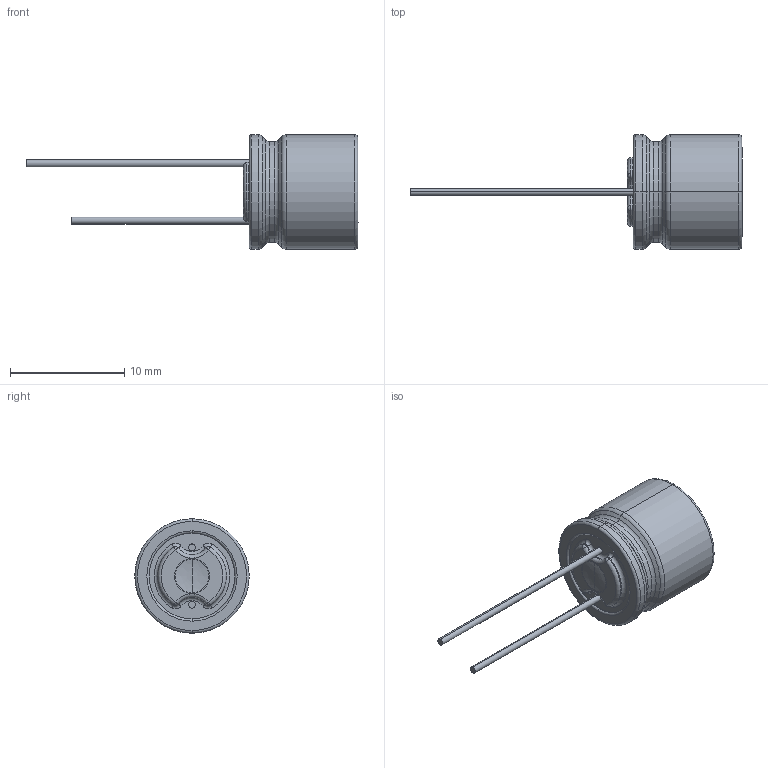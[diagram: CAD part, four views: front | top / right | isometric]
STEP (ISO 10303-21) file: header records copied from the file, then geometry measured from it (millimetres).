
FILE_DESCRIPTION((''),'2;1');
FILE_NAME('HYBRID_RADIAL10X10','2020-05-20T',('xy'),(''),'PRO/ENGINEER BY PARAMETRIC TECHNOLOGY CORPORATION, 2009380','PRO/ENGINEER BY PARAMETRIC TECHNOLOGY CORPORATION, 2009380','');
FILE_SCHEMA(('CONFIG_CONTROL_DESIGN'));
Length unit declared in the file: millimetre
Products named in the file (1): HYBRID_RADIAL10X10
Bounding box: 29 x 10 x 10 mm (x, y, z)
Volume: 736.6 mm3; surface area: 534.1 mm2
Topology: 1 solids, 1 shells, 448 faces, 1216 edges, 795 vertices
Faces by surface type: plane 388, torus 29, cylinder 21, sphere 4, cone 4, bspline 2
Entity records: 13941 total; most frequent: CARTESIAN_POINT 2535, ORIENTED_EDGE 2428, DIRECTION 2208, EDGE_CURVE 1214, VECTOR 1106, LINE 1106, VERTEX_POINT 795, AXIS2_PLACEMENT_3D 551
